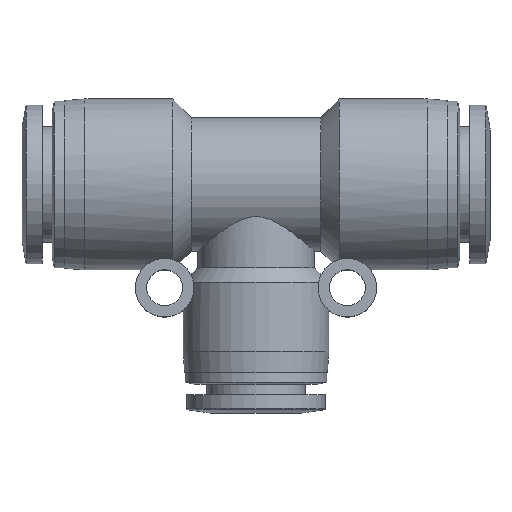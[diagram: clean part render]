
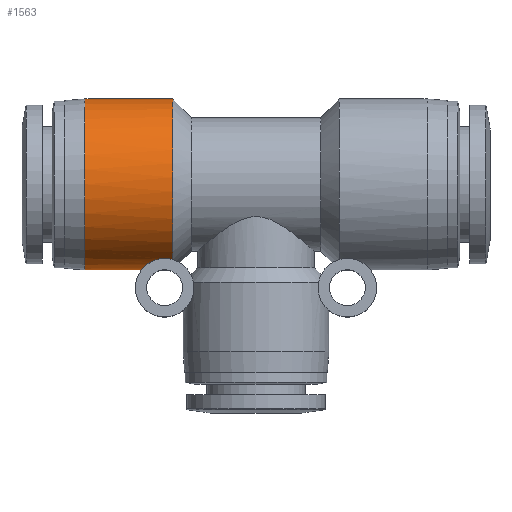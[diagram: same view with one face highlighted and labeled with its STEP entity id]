
A CAD part, top view. The second image highlights one B-rep face of the part: STEP entity #1563.
In plain terms, the highlighted cylindrical face has radius 10.25 mm (diameter 20.5 mm), a partial arc.
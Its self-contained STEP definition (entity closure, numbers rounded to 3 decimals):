
#13 = CARTESIAN_POINT ( 'NONE',  ( -12.097, -9.083, 4.753 ) ) ;
#87 = AXIS2_PLACEMENT_3D ( 'NONE', #2782, #1314, #754 ) ;
#167 = CARTESIAN_POINT ( 'NONE',  ( -13.565, -10.073, 1.897 ) ) ;
#206 = CARTESIAN_POINT ( 'NONE',  ( -13.391, -9.891, 2.695 ) ) ;
#223 = CARTESIAN_POINT ( 'NONE',  ( -13.553, -10.06, 1.963 ) ) ;
#240 = ORIENTED_EDGE ( 'NONE', *, *, #1891, .F. ) ;
#292 = EDGE_LOOP ( 'NONE', ( #3739, #3226, #2699, #2901, #240 ) ) ;
#299 = DIRECTION ( 'NONE',  ( 1., 0., 0. ) ) ;
#447 = AXIS2_PLACEMENT_3D ( 'NONE', #1498, #299, #909 ) ;
#455 = CARTESIAN_POINT ( 'NONE',  ( -13.54, -10.046, 2.037 ) ) ;
#479 = CARTESIAN_POINT ( 'NONE',  ( -20.5, 10.25, 0. ) ) ;
#512 = VERTEX_POINT ( 'NONE', #1406 ) ;
#561 = CIRCLE ( 'NONE', #3071, 10.25 ) ;
#585 = CARTESIAN_POINT ( 'NONE',  ( -13.003, -9.565, 3.683 ) ) ;
#718 = VERTEX_POINT ( 'NONE', #3048 ) ;
#754 = DIRECTION ( 'NONE',  ( 0., 1., 0. ) ) ;
#781 = CARTESIAN_POINT ( 'NONE',  ( -13.615, -10.129, 1.596 ) ) ;
#838 = DIRECTION ( 'NONE',  ( 0., 1., 0. ) ) ;
#851 = CARTESIAN_POINT ( 'NONE',  ( -11.835, -9.014, 4.88 ) ) ;
#872 = CARTESIAN_POINT ( 'NONE',  ( -11.077, -8.899, 5.087 ) ) ;
#909 = DIRECTION ( 'NONE',  ( 0., 1., 0. ) ) ;
#1082 = CARTESIAN_POINT ( 'NONE',  ( -13.03, -9.585, 3.632 ) ) ;
#1098 = CARTESIAN_POINT ( 'NONE',  ( -13.025, -9.581, 3.641 ) ) ;
#1178 = CARTESIAN_POINT ( 'NONE',  ( -11.824, -9.011, 4.885 ) ) ;
#1191 = B_SPLINE_CURVE_WITH_KNOTS ( 'NONE', 3,
 ( #2831, #3411, #2850, #3353, #781, #167, #3654, #2195, #223, #455, #3121, #1613, #1653, #206, #1368, #3711, #1082, #1098, #2552, #585, #1458, #1775, #2269, #2945, #1383, #3770, #3789, #2345, #2060, #2595, #13, #851, #1178, #1423, #3730, #3462, #1983, #2290, #3234, #872, #2324, #3518, #3447 ),
 .UNSPECIFIED., .F., .F.,
 ( 4, 2, 2, 2, 1, 1, 1, 2, 2, 2, 2, 1, 1, 1, 1, 2, 2, 1, 2, 2, 2, 1, 1, 1, 2, 2, 4 ),
 ( 0.5, 0.562, 0.625, 0.627, 0.629, 0.633, 0.641, 0.656, 0.687, 0.75, 0.752, 0.754, 0.758, 0.766, 0.781, 0.797, 0.801, 0.805, 0.812, 0.875, 0.877, 0.879, 0.883, 0.891, 0.906, 0.937, 1. ),
 .UNSPECIFIED. ) ;
#1285 = DIRECTION ( 'NONE',  ( 1., 0., 0. ) ) ;
#1314 = DIRECTION ( 'NONE',  ( 1., 0., 0. ) ) ;
#1320 = EDGE_CURVE ( 'NONE', #3712, #1885, #3387, .T. ) ;
#1368 = CARTESIAN_POINT ( 'NONE',  ( -13.258, -9.765, 3.129 ) ) ;
#1383 = CARTESIAN_POINT ( 'NONE',  ( -12.679, -9.357, 4.185 ) ) ;
#1406 = CARTESIAN_POINT ( 'NONE',  ( -13.712, -10.25, 0. ) ) ;
#1423 = CARTESIAN_POINT ( 'NONE',  ( -11.805, -9.006, 4.894 ) ) ;
#1458 = CARTESIAN_POINT ( 'NONE',  ( -12.972, -9.543, 3.741 ) ) ;
#1498 = CARTESIAN_POINT ( 'NONE',  ( -15.25, 0., 0. ) ) ;
#1541 = CYLINDRICAL_SURFACE ( 'NONE', #447, 10.25 ) ;
#1563 = ADVANCED_FACE ( 'NONE', ( #2105 ), #1541, .T. ) ;
#1571 = LINE ( 'NONE', #3097, #3116 ) ;
#1613 = CARTESIAN_POINT ( 'NONE',  ( -13.486, -9.988, 2.305 ) ) ;
#1653 = CARTESIAN_POINT ( 'NONE',  ( -13.431, -9.931, 2.543 ) ) ;
#1672 = DIRECTION ( 'NONE',  ( 1., 0., 0. ) ) ;
#1744 = CARTESIAN_POINT ( 'NONE',  ( -10., 0., 0. ) ) ;
#1775 = CARTESIAN_POINT ( 'NONE',  ( -12.908, -9.498, 3.854 ) ) ;
#1795 = CARTESIAN_POINT ( 'NONE',  ( -10., -9.031, 4.847 ) ) ;
#1885 = VERTEX_POINT ( 'NONE', #3648 ) ;
#1891 = EDGE_CURVE ( 'NONE', #3712, #718, #1571, .T. ) ;
#1983 = CARTESIAN_POINT ( 'NONE',  ( -11.579, -8.956, 4.986 ) ) ;
#2014 = LINE ( 'NONE', #2286, #2143 ) ;
#2060 = CARTESIAN_POINT ( 'NONE',  ( -12.567, -9.296, 4.319 ) ) ;
#2086 = DIRECTION ( 'NONE',  ( 1., 0., 0. ) ) ;
#2105 = FACE_OUTER_BOUND ( 'NONE', #292, .T. ) ;
#2143 = VECTOR ( 'NONE', #1672, 1000. ) ;
#2195 = CARTESIAN_POINT ( 'NONE',  ( -13.559, -10.067, 1.93 ) ) ;
#2269 = CARTESIAN_POINT ( 'NONE',  ( -12.813, -9.436, 4.006 ) ) ;
#2286 = CARTESIAN_POINT ( 'NONE',  ( -15.25, -10.25, 0. ) ) ;
#2290 = CARTESIAN_POINT ( 'NONE',  ( -11.464, -8.937, 5.019 ) ) ;
#2324 = CARTESIAN_POINT ( 'NONE',  ( -10.601, -8.903, 5.08 ) ) ;
#2345 = CARTESIAN_POINT ( 'NONE',  ( -12.606, -9.316, 4.275 ) ) ;
#2361 = EDGE_CURVE ( 'NONE', #718, #3282, #561, .T. ) ;
#2552 = CARTESIAN_POINT ( 'NONE',  ( -13.016, -9.575, 3.658 ) ) ;
#2595 = CARTESIAN_POINT ( 'NONE',  ( -12.33, -9.174, 4.578 ) ) ;
#2699 = ORIENTED_EDGE ( 'NONE', *, *, #2953, .T. ) ;
#2782 = CARTESIAN_POINT ( 'NONE',  ( -20.5, 0., 0. ) ) ;
#2831 = CARTESIAN_POINT ( 'NONE',  ( -13.712, -10.25, 0. ) ) ;
#2850 = CARTESIAN_POINT ( 'NONE',  ( -13.7, -10.233, 0.663 ) ) ;
#2901 = ORIENTED_EDGE ( 'NONE', *, *, #2361, .F. ) ;
#2945 = CARTESIAN_POINT ( 'NONE',  ( -12.731, -9.387, 4.118 ) ) ;
#2953 = EDGE_CURVE ( 'NONE', #512, #3282, #1191, .T. ) ;
#3048 = CARTESIAN_POINT ( 'NONE',  ( -10., 10.25, 0. ) ) ;
#3071 = AXIS2_PLACEMENT_3D ( 'NONE', #1744, #2086, #838 ) ;
#3097 = CARTESIAN_POINT ( 'NONE',  ( -15.25, 10.25, 0. ) ) ;
#3116 = VECTOR ( 'NONE', #1285, 1000. ) ;
#3121 = CARTESIAN_POINT ( 'NONE',  ( -13.512, -10.015, 2.184 ) ) ;
#3226 = ORIENTED_EDGE ( 'NONE', *, *, #3484, .T. ) ;
#3234 = CARTESIAN_POINT ( 'NONE',  ( -11.233, -8.908, 5.071 ) ) ;
#3282 = VERTEX_POINT ( 'NONE', #1795 ) ;
#3353 = CARTESIAN_POINT ( 'NONE',  ( -13.651, -10.173, 1.293 ) ) ;
#3387 = CIRCLE ( 'NONE', #87, 10.25 ) ;
#3411 = CARTESIAN_POINT ( 'NONE',  ( -13.712, -10.25, 0.335 ) ) ;
#3447 = CARTESIAN_POINT ( 'NONE',  ( -10., -9.031, 4.847 ) ) ;
#3462 = CARTESIAN_POINT ( 'NONE',  ( -11.711, -8.984, 4.935 ) ) ;
#3484 = EDGE_CURVE ( 'NONE', #1885, #512, #2014, .T. ) ;
#3518 = CARTESIAN_POINT ( 'NONE',  ( -10.293, -8.949, 5.001 ) ) ;
#3648 = CARTESIAN_POINT ( 'NONE',  ( -20.5, -10.25, 0. ) ) ;
#3654 = CARTESIAN_POINT ( 'NONE',  ( -13.563, -10.071, 1.909 ) ) ;
#3711 = CARTESIAN_POINT ( 'NONE',  ( -13.154, -9.676, 3.39 ) ) ;
#3712 = VERTEX_POINT ( 'NONE', #479 ) ;
#3730 = CARTESIAN_POINT ( 'NONE',  ( -11.777, -8.999, 4.907 ) ) ;
#3739 = ORIENTED_EDGE ( 'NONE', *, *, #1320, .T. ) ;
#3770 = CARTESIAN_POINT ( 'NONE',  ( -12.67, -9.351, 4.197 ) ) ;
#3789 = CARTESIAN_POINT ( 'NONE',  ( -12.644, -9.337, 4.228 ) ) ;
